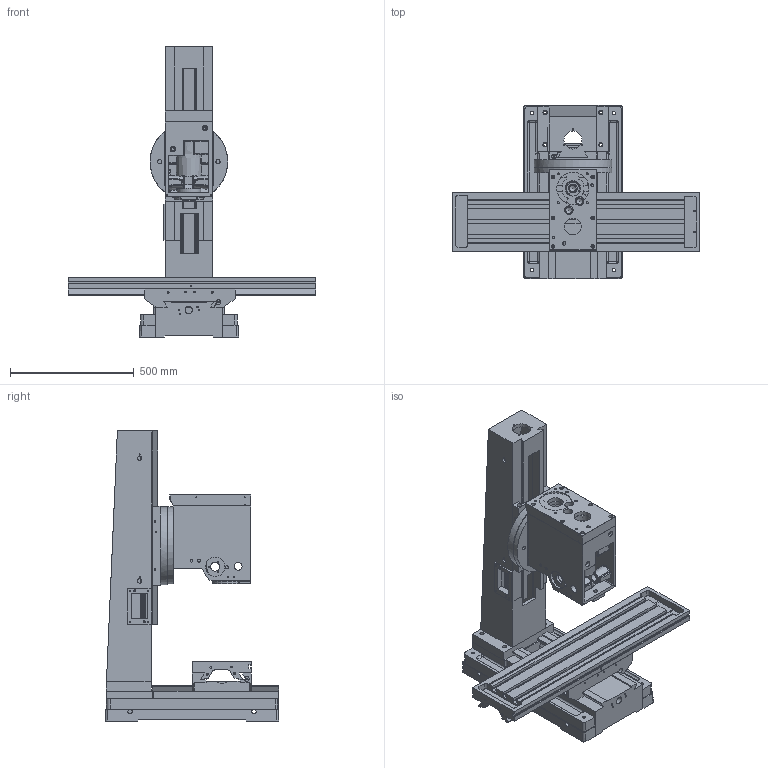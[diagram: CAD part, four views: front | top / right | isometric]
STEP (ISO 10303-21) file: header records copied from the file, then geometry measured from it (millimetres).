
FILE_DESCRIPTION(/* description */ ('Alibre Inc.'),/* implementation_level */ '2;1');
FILE_NAME(/* name */ 'export0',/* time_stamp */ '2010-03-03T23:05:16-05:00',/* author */ (''),/* organization */ (''),/* preprocessor_version */ 'ST-DEVELOPER v10',/* originating_system */ 'Alibre',/* authorisation */ '');
FILE_SCHEMA (('AUTOMOTIVE_DESIGN'));
Length unit declared in the file: centimetre
Bounding box: 1000 x 700 x 1169.99 mm (x, y, z)
Volume: 39815099.8 mm3; surface area: 5608978.2 mm2
Topology: 7 solids, 7 shells, 1849 faces, 4852 edges, 2999 vertices
Faces by surface type: plane 781, cylinder 540, bspline 231, torus 152, cone 94, sphere 51
Full cylindrical faces by diameter (mm): 4.134 x12, 4.2 x2, 4.5 x2, 4.917 x2, 5 x3, 5.25 x4, 5.5 x2, 6 x4, 6.15 x4, 6.5 x2, 6.647 x12, 6.8 x20, 8 x6, 8.5 x4, 9 x6, 10 x3, 10.25 x4, 10.917 x1, 12 x10, 12.5 x1, 13 x4, 14.376 x1, 14.5 x6, 15.25 x1, 16 x1, 17 x10, 17.294 x4, 19 x1, 22 x2, 26 x1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
Entity records: 85774 total; most frequent: CARTESIAN_POINT 44329, ORIENTED_EDGE 9028, DIRECTION 7340, EDGE_CURVE 4514, AXIS2_PLACEMENT_3D 3007, VERTEX_POINT 2918, FACE_BOUND 2312, EDGE_LOOP 2309
